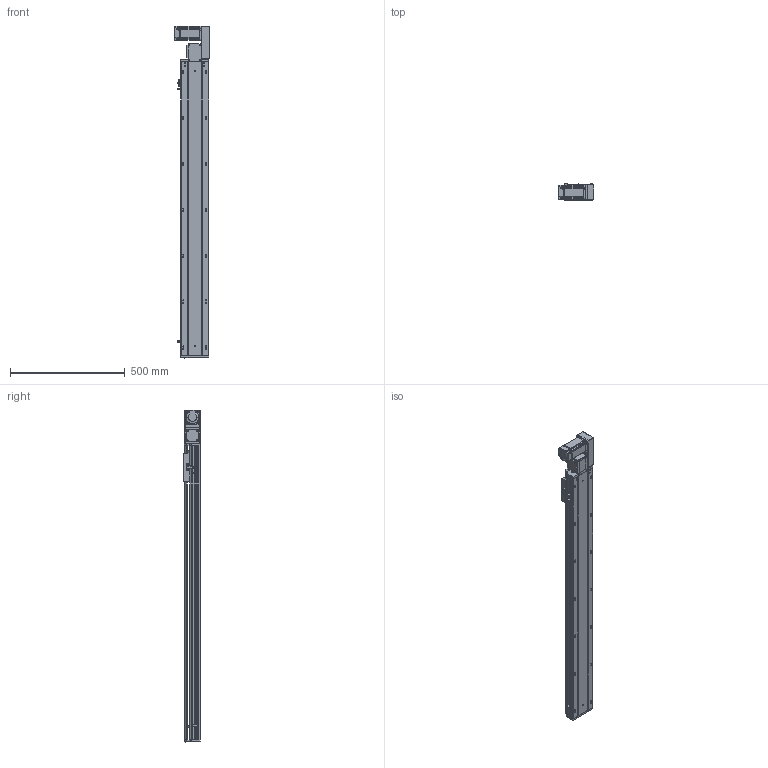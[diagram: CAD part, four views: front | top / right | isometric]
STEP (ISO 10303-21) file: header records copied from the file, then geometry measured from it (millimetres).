
FILE_DESCRIPTION (( 'STEP AP203' ), '1' );
FILE_NAME ('RY120-T-300-RK.SLDASM_1050.step', '2021-03-01T03:53:43', ( '盈信电脑' ), ( '东莞市道滘镇水果街19号' ), 'SwSTEP 2.0', 'SolidWorks 2012', '' );
FILE_SCHEMA (( 'CONFIG_CONTROL_DESIGN' ));
Length unit declared in the file: millimetre
Products named in the file (17): RY120-T-300-RK.SLDASM_1050; RY120-T萇儂欶; RY120-T蹟翐M4; RY120-T主同步轮轴承压盖; RY120-T萇儂假蚾啣; RY120-T翋肮祭謫裔啣; 滅袉蝶18-10; 15; RY120-T翋肮祭盓傅釱; RY120-T肮祭湍揤踡輸1; RY120外置感应片(140共用）; RY120-T肮祭湍揤踡輸2; RY120-T-300-RK倰第奻裔啣_1050; RY120綴裔啣; 覜茼ん672; RY120肮祭湍臏賑輸; RY120-T-300-RK倰第菁釱_1050
Assembly tree (22 placements, depth 2):
  RY120-T-300-RK.SLDASM_1050
    RY120-T-300-RK倰第菁釱_1050
    RY120-T-300-RK倰第奻裔啣_1050
    RY120肮祭湍臏賑輸
    RY120綴裔啣
    覜茼ん672  x3
    RY120外置感应片(140共用）
    RY120-T肮祭湍揤踡輸1
    RY120-T肮祭湍揤踡輸2
    RY120-T翋肮祭盓傅釱
    滅袉蝶18-10  x2
    RY120-T翋肮祭謫裔啣
    15
    RY120-T萇儂假蚾啣
    RY120-T蹟翐M4  x4
    RY120-T萇儂欶
    RY120-T主同步轮轴承压盖
Bounding box: 155.5 x 73 x 1447.5 mm (x, y, z)
Volume: 3727245.8 mm3; surface area: 1393716.4 mm2
Topology: 23 solids, 23 shells, 2824 faces, 7692 edges, 4928 vertices
Faces by surface type: plane 1416, cylinder 1066, cone 253, bspline 89
Entity records: 89641 total; most frequent: CARTESIAN_POINT 22686, ORIENTED_EDGE 13800, DIRECTION 13086, EDGE_CURVE 6900, VERTEX_POINT 4515, AXIS2_PLACEMENT_3D 4383, LINE 4320, VECTOR 4320
